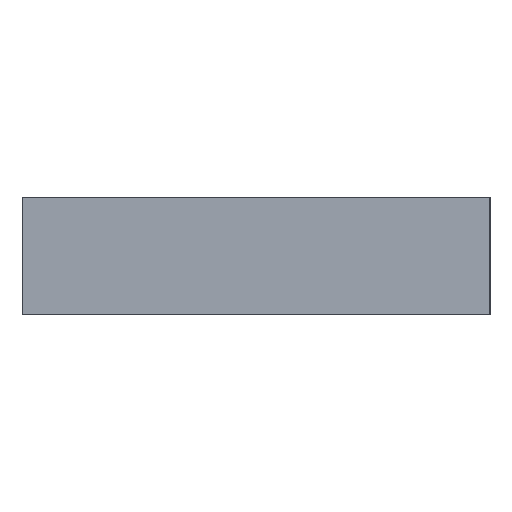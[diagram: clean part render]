
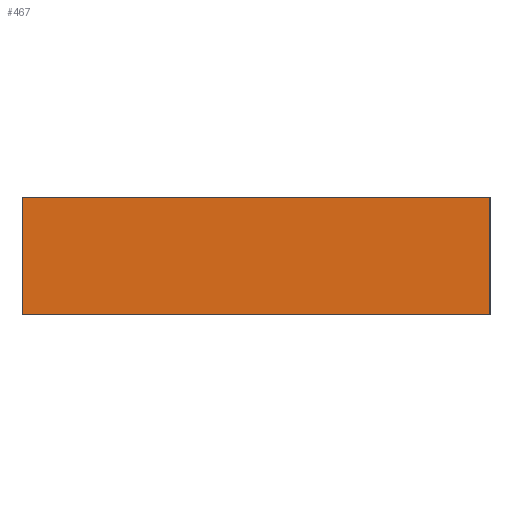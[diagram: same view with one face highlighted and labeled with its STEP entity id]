
A CAD part, left-side view. The second image highlights one B-rep face of the part: STEP entity #467.
In plain terms, the highlighted planar face has unit normal (-1, 0, 0).
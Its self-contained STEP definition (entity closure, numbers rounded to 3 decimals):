
#67 = FACE_OUTER_BOUND ( 'NONE', #278, .T. ) ;
#156 = ORIENTED_EDGE ( 'NONE', *, *, #538, .F. ) ;
#157 = ORIENTED_EDGE ( 'NONE', *, *, #548, .T. ) ;
#205 = ORIENTED_EDGE ( 'NONE', *, *, #544, .T. ) ;
#206 = ORIENTED_EDGE ( 'NONE', *, *, #547, .F. ) ;
#278 = EDGE_LOOP ( 'NONE', ( #205, #206, #156, #157 ) ) ;
#348 = LINE ( 'NONE', #831, #349 ) ;
#349 = VECTOR ( 'NONE', #830, 1000. ) ;
#358 = LINE ( 'NONE', #843, #359 ) ;
#359 = VECTOR ( 'NONE', #844, 1000. ) ;
#364 = LINE ( 'NONE', #841, #365 ) ;
#365 = VECTOR ( 'NONE', #834, 1000. ) ;
#366 = LINE ( 'NONE', #836, #367 ) ;
#367 = VECTOR ( 'NONE', #837, 1000. ) ;
#467 = ADVANCED_FACE ( 'NONE', ( #67 ), #716, .F. ) ;
#538 = EDGE_CURVE ( 'NONE', #607, #606, #348, .T. ) ;
#544 = EDGE_CURVE ( 'NONE', #597, #604, #358, .T. ) ;
#547 = EDGE_CURVE ( 'NONE', #606, #604, #364, .T. ) ;
#548 = EDGE_CURVE ( 'NONE', #607, #597, #366, .T. ) ;
#582 = AXIS2_PLACEMENT_3D ( 'NONE', #710, #704, #703 ) ;
#597 = VERTEX_POINT ( 'NONE', #853 ) ;
#604 = VERTEX_POINT ( 'NONE', #866 ) ;
#606 = VERTEX_POINT ( 'NONE', #864 ) ;
#607 = VERTEX_POINT ( 'NONE', #863 ) ;
#703 = DIRECTION ( 'NONE',  ( 0., 1., 0. ) ) ;
#704 = DIRECTION ( 'NONE',  ( 1., 0., 0. ) ) ;
#710 = CARTESIAN_POINT ( 'NONE',  ( -251., 0., 120. ) ) ;
#716 = PLANE ( 'NONE',  #582 ) ;
#830 = DIRECTION ( 'NONE',  ( 0., -1., 0. ) ) ;
#831 = CARTESIAN_POINT ( 'NONE',  ( -251., 0., 120. ) ) ;
#834 = DIRECTION ( 'NONE',  ( 0., 0., -1. ) ) ;
#836 = CARTESIAN_POINT ( 'NONE',  ( -251., 479., 120. ) ) ;
#837 = DIRECTION ( 'NONE',  ( 0., 0., -1. ) ) ;
#841 = CARTESIAN_POINT ( 'NONE',  ( -251., 0., 120. ) ) ;
#843 = CARTESIAN_POINT ( 'NONE',  ( -251., 0., 0. ) ) ;
#844 = DIRECTION ( 'NONE',  ( 0., -1., 0. ) ) ;
#853 = CARTESIAN_POINT ( 'NONE',  ( -251., 479., 0. ) ) ;
#863 = CARTESIAN_POINT ( 'NONE',  ( -251., 479., 120. ) ) ;
#864 = CARTESIAN_POINT ( 'NONE',  ( -251., 0., 120. ) ) ;
#866 = CARTESIAN_POINT ( 'NONE',  ( -251., 0., 0. ) ) ;
